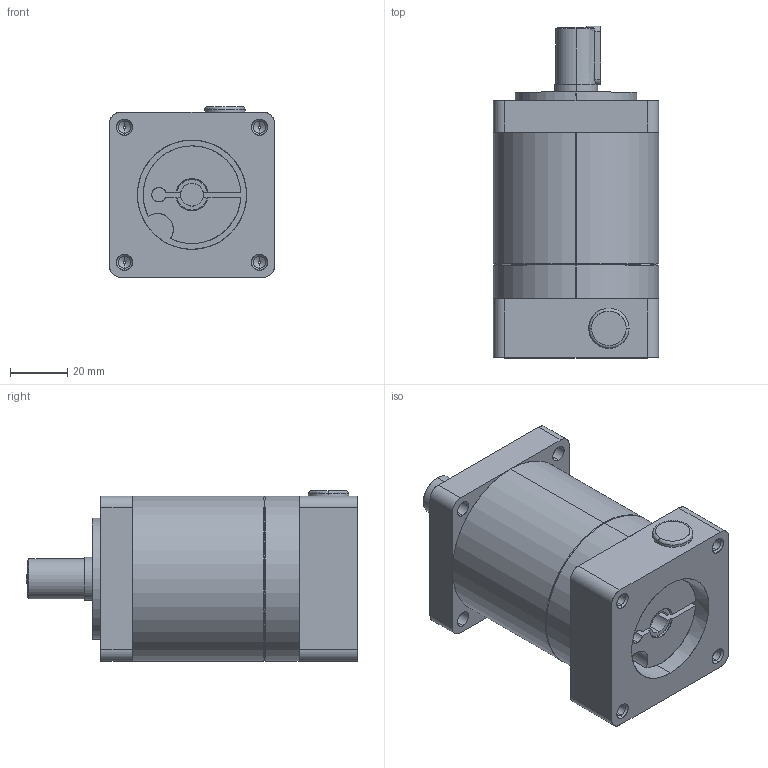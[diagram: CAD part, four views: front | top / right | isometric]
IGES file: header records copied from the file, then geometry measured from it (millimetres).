
Start section: SolidWorks IGES file using analytic representation for surfaces
Global section: file name: F:\My places\Ìîè Äîêóìåíòû\SolidWorks\Ñòåêêåð\Ðåäóêòîð PX57-N016-S0.IGS; native system: SolidWorks 2018; preprocessor: SolidWorks 2018; author: Äèìà; date: 200210.142935; units: millimetre
Bounding box: 57.5 x 115.5 x 59.4 mm (x, y, z)
Surface area: 36187.2 mm2 (no closed solid volume)
Topology: 0 solids, 0 shells, 181 faces, 3009 edges, 3005 vertices
Faces by surface type: revolution 121, bspline 60
